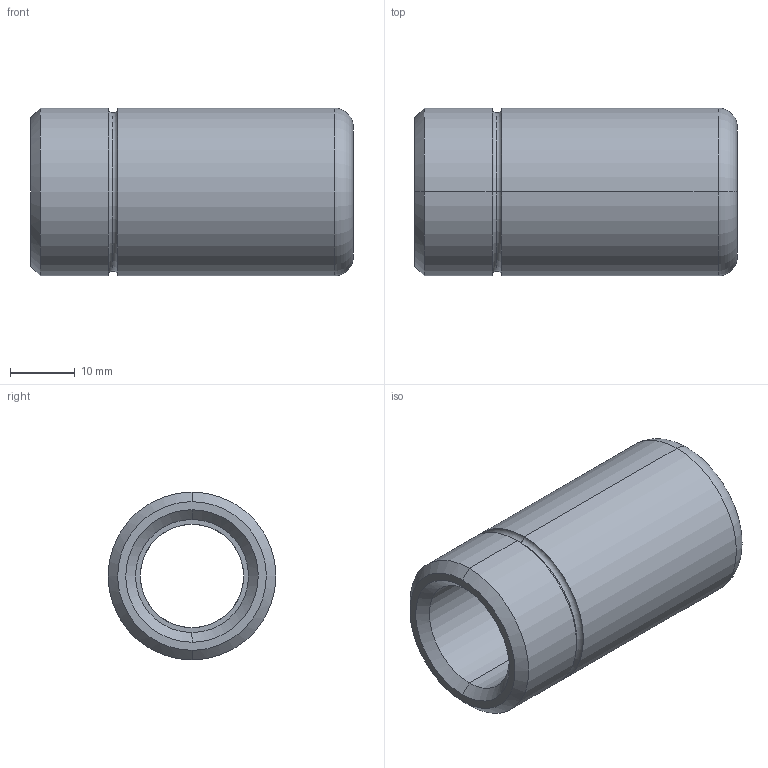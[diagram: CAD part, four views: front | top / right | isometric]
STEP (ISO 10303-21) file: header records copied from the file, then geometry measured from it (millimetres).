
FILE_DESCRIPTION(('CATIA V5 STEP Exchange'),'2;1');
FILE_NAME('C:\Users\Utente\Desktop\IO LAVORO\3D X SITO CF\X SITO\3D files 348\348-16 x 50.stp','2020-12-30T20:01:36+00:00',('none'),('none'),'CATIA Version 5 Release 20 GA (IN-10)','CATIA V5 STEP AP203','none');
FILE_SCHEMA(('CONFIG_CONTROL_DESIGN'));
Length unit declared in the file: millimetre
Products named in the file (1): 348-16 x 50
Bounding box: 50 x 26 x 26 mm (x, y, z)
Volume: 15166.8 mm3; surface area: 7273.4 mm2
Topology: 1 solids, 1 shells, 29 faces, 86 edges, 60 vertices
Faces by surface type: torus 12, cylinder 10, cone 4, plane 3
Entity records: 1154 total; most frequent: CARTESIAN_POINT 344, ORIENTED_EDGE 172, DIRECTION 132, AXIS2_PLACEMENT_3D 90, EDGE_CURVE 86, CIRCLE 60, VERTEX_POINT 60, EDGE_LOOP 32
